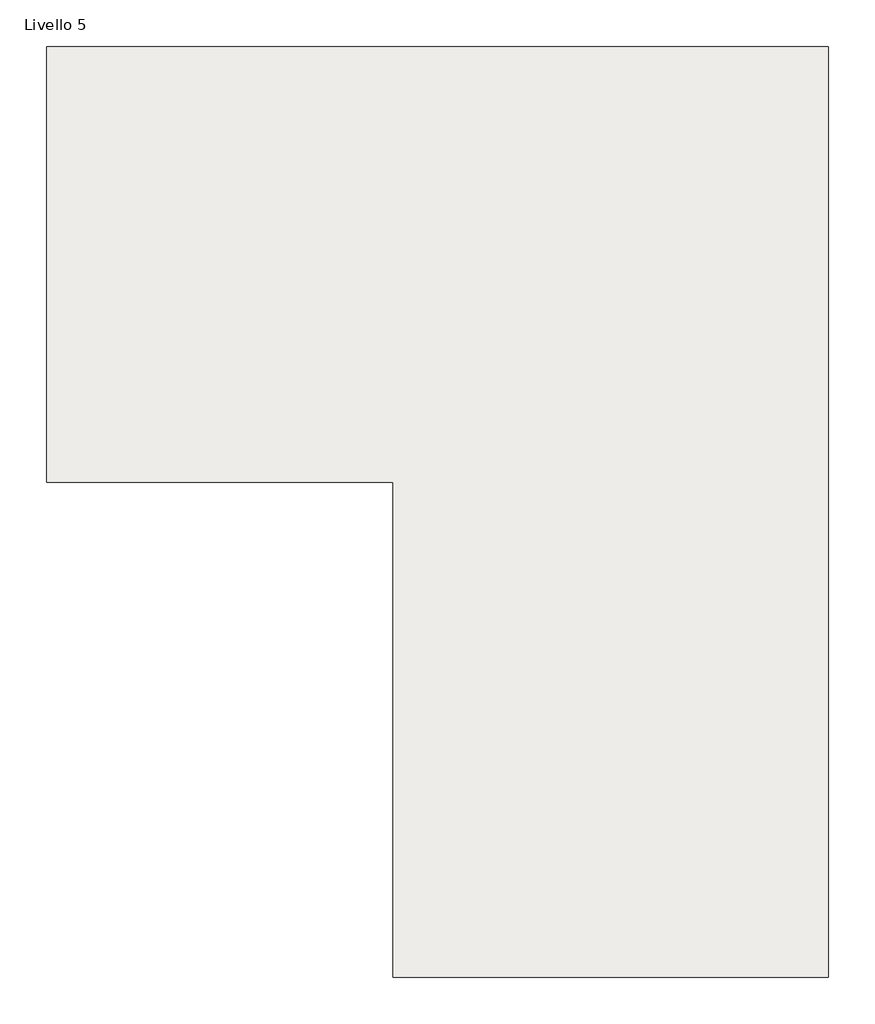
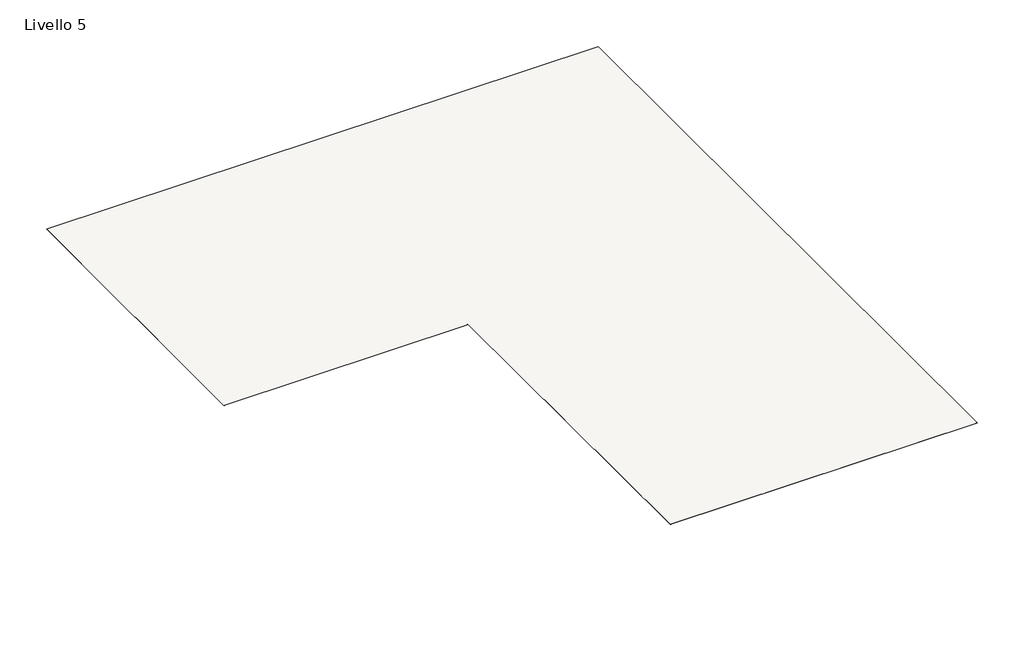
# One storey: 1 slab.
"""IFC4 building model written with IfcOpenShell, lengths in millimetres."""

from ifc_helpers import new_model, si_unit, frame, origin, place, context, project, spatial, polyline, outline, extrude, element, save

model = new_model("IFC4")

# Units and contexts
model_context = context("Model", 3, world=origin())
ifc_project = project(units=[si_unit("LENGTHUNIT", "METRE", prefix="MILLI")], contexts=[model_context])

# Site, building, storey
site = spatial("IfcSite", under=ifc_project)
building = spatial("IfcBuilding", under=site)
storey = spatial("IfcBuildingStorey", under=building, Name="Livello 5", Elevation=-2480.0)

# Slab
placement = place(None, origin())
element("IfcSlab", 1, ObjectType="METAL MESH", at=placement, inside=storey, context=model_context, shape_type="SweptSolid", body=[
    extrude(outline(polyline([(1472.1031791, 228.648913), (-5527.8968209, 228.648913), (-5527.8968209, 9028.648913), (10272.1031791, 9028.648913), (10272.1031791, -9771.351087), (1472.1031791, -9771.351087), (1472.1031791, 228.648913)])), frame((0.0, 0.0, -2480.0), z_axis=(0.0, 0.0, 1.0), x_axis=(1.0, 0.0, 0.0)), (0.0, 0.0, 1.0), 1.0),
])

save(model, "model.ifc")
